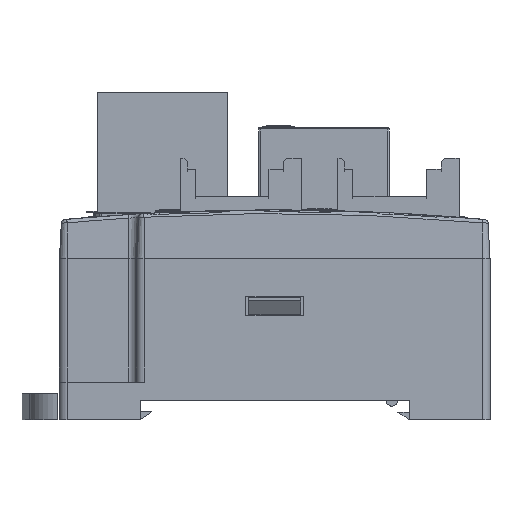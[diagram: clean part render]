
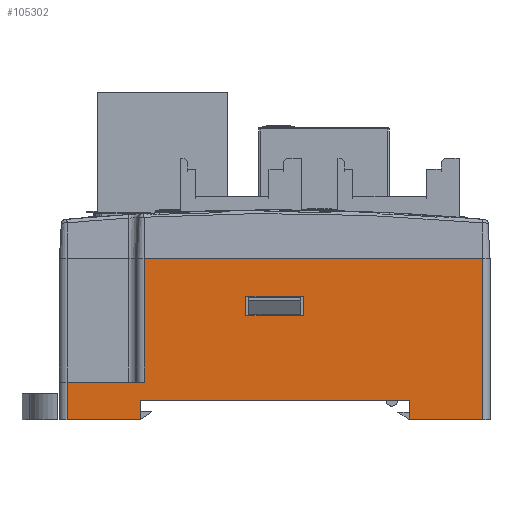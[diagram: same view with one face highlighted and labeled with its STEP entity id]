
A CAD part, front view. The second image highlights one B-rep face of the part: STEP entity #105302.
In plain terms, the highlighted planar face has unit normal (0, -1, 0).
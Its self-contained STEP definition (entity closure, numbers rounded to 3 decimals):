
#5270=DIRECTION('',(0.,0.,-1.));
#5271=VECTOR('',#5270,21.);
#5272=CARTESIAN_POINT('',(27.,-60.,0.));
#5273=LINE('',#5272,#5271);
#5330=DIRECTION('',(0.,0.,-1.));
#5331=VECTOR('',#5330,2.5);
#5332=CARTESIAN_POINT('',(17.5,-60.,-18.5));
#5333=LINE('',#5332,#5331);
#5923=DIRECTION('',(0.,0.,1.));
#5924=VECTOR('',#5923,16.1);
#5925=CARTESIAN_POINT('',(-17.,-60.,-16.1));
#5926=LINE('',#5925,#5924);
#5931=DIRECTION('',(1.,0.,0.));
#5932=VECTOR('',#5931,9.5);
#5933=CARTESIAN_POINT('',(17.5,-60.,-21.));
#5934=LINE('',#5933,#5932);
#5935=DIRECTION('',(1.,0.,0.));
#5936=VECTOR('',#5935,9.5);
#5937=CARTESIAN_POINT('',(-27.,-60.,-21.));
#5938=LINE('',#5937,#5936);
#5939=DIRECTION('',(0.,0.,1.));
#5940=VECTOR('',#5939,2.5);
#5941=CARTESIAN_POINT('',(-3.75,-60.,-7.5));
#5942=LINE('',#5941,#5940);
#6011=DIRECTION('',(1.,0.,0.));
#6012=VECTOR('',#6011,7.5);
#6013=CARTESIAN_POINT('',(-3.75,-60.,-5.));
#6014=LINE('',#6013,#6012);
#6202=DIRECTION('',(0.,0.,-1.));
#6203=VECTOR('',#6202,2.5);
#6204=CARTESIAN_POINT('',(3.75,-60.,-5.));
#6205=LINE('',#6204,#6203);
#6210=DIRECTION('',(-1.,0.,0.));
#6211=VECTOR('',#6210,7.5);
#6212=CARTESIAN_POINT('',(3.75,-60.,-7.5));
#6213=LINE('',#6212,#6211);
#6222=DIRECTION('',(-1.,0.,0.));
#6223=VECTOR('',#6222,35.);
#6224=CARTESIAN_POINT('',(17.5,-60.,-18.5));
#6225=LINE('',#6224,#6223);
#6230=DIRECTION('',(0.,0.,1.));
#6231=VECTOR('',#6230,2.5);
#6232=CARTESIAN_POINT('',(-17.5,-60.,-21.));
#6233=LINE('',#6232,#6231);
#38888=DIRECTION('',(1.,0.,0.));
#38889=VECTOR('',#38888,10.);
#38890=CARTESIAN_POINT('',(-27.,-60.,-16.1));
#38891=LINE('',#38890,#38889);
#38925=DIRECTION('',(0.,0.,1.));
#38926=VECTOR('',#38925,4.9);
#38927=CARTESIAN_POINT('',(-27.,-60.,-21.));
#38928=LINE('',#38927,#38926);
#39018=DIRECTION('',(1.,0.,0.));
#39019=VECTOR('',#39018,44.);
#39020=CARTESIAN_POINT('',(-17.,-60.,0.));
#39021=LINE('',#39020,#39019);
#81134=CARTESIAN_POINT('',(-17.5,-60.,-21.));
#81135=VERTEX_POINT('',#81134);
#81136=CARTESIAN_POINT('',(-27.,-60.,-21.));
#81137=VERTEX_POINT('',#81136);
#81164=CARTESIAN_POINT('',(27.,-60.,-21.));
#81165=VERTEX_POINT('',#81164);
#81166=CARTESIAN_POINT('',(17.5,-60.,-21.));
#81167=VERTEX_POINT('',#81166);
#81236=CARTESIAN_POINT('',(17.5,-60.,-18.5));
#81237=CARTESIAN_POINT('',(-17.5,-60.,-18.5));
#81238=VERTEX_POINT('',#81236);
#81239=VERTEX_POINT('',#81237);
#81240=CARTESIAN_POINT('',(-27.,-60.,-16.1));
#81241=VERTEX_POINT('',#81240);
#81242=CARTESIAN_POINT('',(-17.,-60.,-16.1));
#81243=VERTEX_POINT('',#81242);
#81244=CARTESIAN_POINT('',(-3.75,-60.,-7.5));
#81245=CARTESIAN_POINT('',(-3.75,-60.,-5.));
#81246=VERTEX_POINT('',#81244);
#81247=VERTEX_POINT('',#81245);
#81248=CARTESIAN_POINT('',(3.75,-60.,-7.5));
#81249=VERTEX_POINT('',#81248);
#81250=CARTESIAN_POINT('',(3.75,-60.,-5.));
#81251=VERTEX_POINT('',#81250);
#98147=CARTESIAN_POINT('',(-17.,-60.,0.));
#98148=CARTESIAN_POINT('',(27.,-60.,0.));
#98149=VERTEX_POINT('',#98147);
#98150=VERTEX_POINT('',#98148);
#105269=CARTESIAN_POINT('',(0.,-60.,-10.5));
#105270=DIRECTION('',(0.,1.,0.));
#105271=DIRECTION('',(1.,0.,0.));
#105272=AXIS2_PLACEMENT_3D('',#105269,#105270,#105271);
#105273=PLANE('',#105272);
#105274=ORIENTED_EDGE('',*,*,#104096,.T.);
#105275=ORIENTED_EDGE('',*,*,#104117,.F.);
#105276=ORIENTED_EDGE('',*,*,#104215,.F.);
#105278=ORIENTED_EDGE('',*,*,#105277,.T.);
#105280=ORIENTED_EDGE('',*,*,#105279,.F.);
#105282=ORIENTED_EDGE('',*,*,#105281,.F.);
#105284=ORIENTED_EDGE('',*,*,#105283,.T.);
#105286=ORIENTED_EDGE('',*,*,#105285,.T.);
#105287=ORIENTED_EDGE('',*,*,#105253,.T.);
#105289=ORIENTED_EDGE('',*,*,#105288,.T.);
#105290=EDGE_LOOP('',(#105274,#105275,#105276,#105278,#105280,#105282,#105284,
#105286,#105287,#105289));
#105291=FACE_OUTER_BOUND('',#105290,.F.);
#105293=ORIENTED_EDGE('',*,*,#105292,.F.);
#105295=ORIENTED_EDGE('',*,*,#105294,.F.);
#105297=ORIENTED_EDGE('',*,*,#105296,.F.);
#105299=ORIENTED_EDGE('',*,*,#105298,.F.);
#105300=EDGE_LOOP('',(#105293,#105295,#105297,#105299));
#105301=FACE_BOUND('',#105300,.F.);
#105302=ADVANCED_FACE('',(#105291,#105301),#105273,.F.);
#104096=EDGE_CURVE('',#98150,#81165,#5273,.T.);
#104117=EDGE_CURVE('',#81167,#81165,#5934,.T.);
#104215=EDGE_CURVE('',#81238,#81167,#5333,.T.);
#105253=EDGE_CURVE('',#81243,#98149,#5926,.T.);
#105277=EDGE_CURVE('',#81238,#81239,#6225,.T.);
#105279=EDGE_CURVE('',#81135,#81239,#6233,.T.);
#105281=EDGE_CURVE('',#81137,#81135,#5938,.T.);
#105283=EDGE_CURVE('',#81137,#81241,#38928,.T.);
#105285=EDGE_CURVE('',#81241,#81243,#38891,.T.);
#105288=EDGE_CURVE('',#98149,#98150,#39021,.T.);
#105292=EDGE_CURVE('',#81246,#81247,#5942,.T.);
#105294=EDGE_CURVE('',#81249,#81246,#6213,.T.);
#105296=EDGE_CURVE('',#81251,#81249,#6205,.T.);
#105298=EDGE_CURVE('',#81247,#81251,#6014,.T.);
